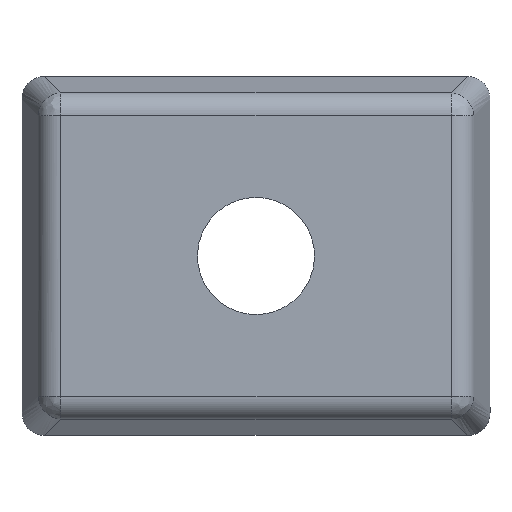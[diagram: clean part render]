
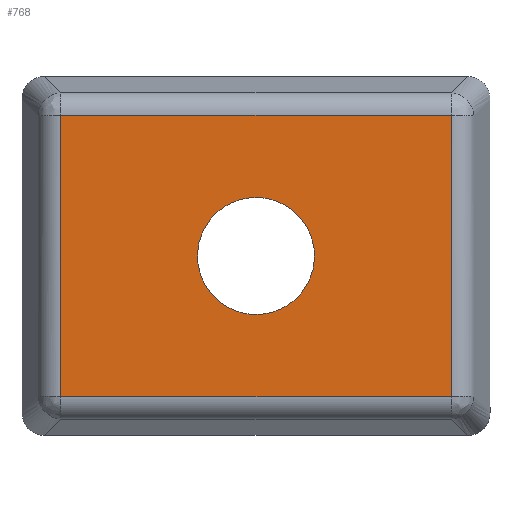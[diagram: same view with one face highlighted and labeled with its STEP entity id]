
A CAD part, front view. The second image highlights one B-rep face of the part: STEP entity #768.
In plain terms, the highlighted free-form (B-spline) face has degree [1, 1] with [2, 2] control points.
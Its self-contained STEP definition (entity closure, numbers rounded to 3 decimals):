
#768=ADVANCED_FACE('',(#1546,#1547),#1548,.T.);
#1546=FACE_OUTER_BOUND('',#4607,.T.);
#1547=FACE_BOUND('',#4608,.T.);
#1548=B_SPLINE_SURFACE_WITH_KNOTS('',1,1,((#4609,#4610),(#4611,#4612)),.UNSPECIFIED.,.F.,.F.,.F.,(2,2),(2,2),(0.0,36.037),(0.0,50.037),.UNSPECIFIED.);
#4607=EDGE_LOOP('',(#6066,#6067,#6068,#6069));
#4608=EDGE_LOOP('',(#6070,#6071,#6072));
#4609=CARTESIAN_POINT('',(-25.019,0.,18.019));
#4610=CARTESIAN_POINT('',(25.019,0.,18.019));
#4611=CARTESIAN_POINT('',(-25.019,0.,-18.019));
#4612=CARTESIAN_POINT('',(25.019,0.,-18.019));
#6066=ORIENTED_EDGE('',*,*,#6704,.T.);
#6067=ORIENTED_EDGE('',*,*,#7144,.T.);
#6068=ORIENTED_EDGE('',*,*,#7090,.T.);
#6069=ORIENTED_EDGE('',*,*,#7142,.F.);
#6070=ORIENTED_EDGE('',*,*,#6621,.T.);
#6071=ORIENTED_EDGE('',*,*,#6317,.T.);
#6072=ORIENTED_EDGE('',*,*,#6321,.T.);
#6317=EDGE_CURVE('',#7265,#7269,#7271,.T.);
#6321=EDGE_CURVE('',#7269,#7275,#7277,.T.);
#6621=EDGE_CURVE('',#7275,#7265,#7739,.T.);
#6704=EDGE_CURVE('',#7816,#7864,#7866,.T.);
#7090=EDGE_CURVE('',#8393,#8430,#8432,.T.);
#7142=EDGE_CURVE('',#7816,#8430,#8496,.T.);
#7144=EDGE_CURVE('',#7864,#8393,#8498,.T.);
#7265=VERTEX_POINT('',#8885);
#7269=VERTEX_POINT('',#8903);
#7271=(B_SPLINE_CURVE(2,(#8907,#8908,#8909,#8910,#8911,#8912,#8913),.UNSPECIFIED.,.F.,.F.)B_SPLINE_CURVE_WITH_KNOTS((3,2,2,3),(-3.078,-1.571,0.,0.063),.UNSPECIFIED.)RATIONAL_B_SPLINE_CURVE((0.977,0.719,1.0,0.707,1.0,0.988,0.977))BOUNDED_CURVE()REPRESENTATION_ITEM('')GEOMETRIC_REPRESENTATION_ITEM()CURVE());
#7275=VERTEX_POINT('',#8934);
#7277=(B_SPLINE_CURVE(2,(#8938,#8939,#8940,#8941,#8942),.UNSPECIFIED.,.F.,.F.)B_SPLINE_CURVE_WITH_KNOTS((3,2,3),(0.063,1.571,3.142),.UNSPECIFIED.)RATIONAL_B_SPLINE_CURVE((0.977,0.719,1.0,0.707,1.0))BOUNDED_CURVE()REPRESENTATION_ITEM('')GEOMETRIC_REPRESENTATION_ITEM()CURVE());
#7739=(B_SPLINE_CURVE(2,(#10117,#10118,#10119),.UNSPECIFIED.,.F.,.F.)B_SPLINE_CURVE_WITH_KNOTS((3,3),(-3.142,-3.078),.UNSPECIFIED.)RATIONAL_B_SPLINE_CURVE((1.0,0.988,0.977))BOUNDED_CURVE()REPRESENTATION_ITEM('')GEOMETRIC_REPRESENTATION_ITEM()CURVE());
#7816=VERTEX_POINT('',#10383);
#7864=VERTEX_POINT('',#10499);
#7866=B_SPLINE_CURVE_WITH_KNOTS('',1,(#10507,#10508),.UNSPECIFIED.,.F.,.F.,(2,2),(0.,50.037),.UNSPECIFIED.);
#8393=VERTEX_POINT('',#11840);
#8430=VERTEX_POINT('',#11940);
#8432=B_SPLINE_CURVE_WITH_KNOTS('',1,(#11948,#11949),.UNSPECIFIED.,.F.,.F.,(2,2),(0.,50.037),.UNSPECIFIED.);
#8496=B_SPLINE_CURVE_WITH_KNOTS('',1,(#12097,#12098),.UNSPECIFIED.,.F.,.F.,(2,2),(0.,36.037),.UNSPECIFIED.);
#8498=B_SPLINE_CURVE_WITH_KNOTS('',1,(#12100,#12101),.UNSPECIFIED.,.F.,.F.,(2,2),(0.,36.037),.UNSPECIFIED.);
#8885=CARTESIAN_POINT('',(7.488,0.,-0.432));
#8903=CARTESIAN_POINT('',(-7.488,0.,0.432));
#8907=CARTESIAN_POINT('',(7.488,0.,-0.432));
#8908=CARTESIAN_POINT('',(7.08,0.,-7.5));
#8909=CARTESIAN_POINT('',(0.,0.,-7.5));
#8910=CARTESIAN_POINT('',(-7.5,0.,-7.5));
#8911=CARTESIAN_POINT('',(-7.5,0.,0.));
#8912=CARTESIAN_POINT('',(-7.5,0.,0.216));
#8913=CARTESIAN_POINT('',(-7.488,0.,0.432));
#8934=CARTESIAN_POINT('',(7.5,0.,0.));
#8938=CARTESIAN_POINT('',(-7.488,0.,0.432));
#8939=CARTESIAN_POINT('',(-7.08,0.,7.5));
#8940=CARTESIAN_POINT('',(0.,0.,7.5));
#8941=CARTESIAN_POINT('',(7.5,0.,7.5));
#8942=CARTESIAN_POINT('',(7.5,0.,0.));
#10117=CARTESIAN_POINT('',(7.5,0.,0.));
#10118=CARTESIAN_POINT('',(7.5,0.,-0.216));
#10119=CARTESIAN_POINT('',(7.488,0.,-0.432));
#10383=CARTESIAN_POINT('',(25.019,0.,18.019));
#10499=CARTESIAN_POINT('',(-25.019,0.,18.019));
#10507=CARTESIAN_POINT('',(25.019,0.,18.019));
#10508=CARTESIAN_POINT('',(-25.019,0.,18.019));
#11840=CARTESIAN_POINT('',(-25.019,0.,-18.019));
#11940=CARTESIAN_POINT('',(25.019,0.,-18.019));
#11948=CARTESIAN_POINT('',(-25.019,0.,-18.019));
#11949=CARTESIAN_POINT('',(25.019,0.,-18.019));
#12097=CARTESIAN_POINT('',(25.019,0.,18.019));
#12098=CARTESIAN_POINT('',(25.019,0.,-18.019));
#12100=CARTESIAN_POINT('',(-25.019,0.,18.019));
#12101=CARTESIAN_POINT('',(-25.019,0.,-18.019));
